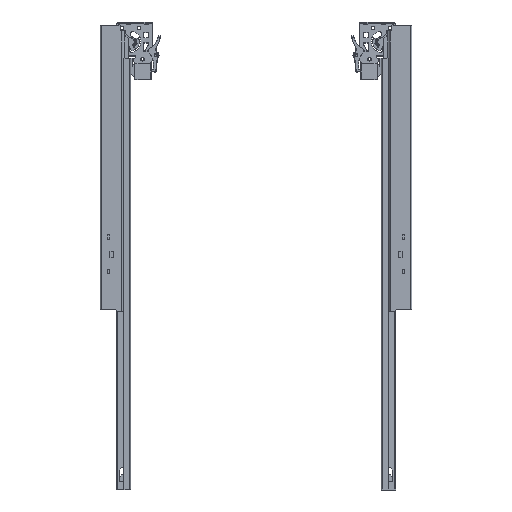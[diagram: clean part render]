
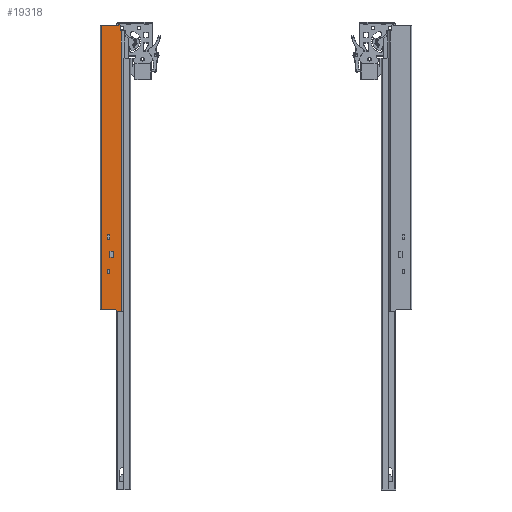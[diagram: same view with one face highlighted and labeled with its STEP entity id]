
A CAD part, front view. The second image highlights one B-rep face of the part: STEP entity #19318.
In plain terms, the highlighted planar face has unit normal (0, -1, 0).
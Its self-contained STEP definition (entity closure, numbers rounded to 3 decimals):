
#637=FACE_BOUND('',#3901,.T.);
#638=FACE_BOUND('',#3902,.T.);
#639=FACE_BOUND('',#3903,.T.);
#1417=CIRCLE('',#20562,0.5);
#1418=CIRCLE('',#20563,0.5);
#2714=FACE_OUTER_BOUND('',#3900,.T.);
#3900=EDGE_LOOP('',(#12413,#12414,#12415,#12416,#12417,#12418,#12419,#12420,
#12421,#12422));
#3901=EDGE_LOOP('',(#12423,#12424,#12425,#12426));
#3902=EDGE_LOOP('',(#12427,#12428,#12429,#12430));
#3903=EDGE_LOOP('',(#12431,#12432,#12433,#12434));
#5377=LINE('',#29144,#6649);
#5381=LINE('',#29152,#6653);
#5384=LINE('',#29158,#6656);
#5387=LINE('',#29163,#6659);
#5389=LINE('',#29169,#6661);
#5393=LINE('',#29177,#6665);
#5396=LINE('',#29183,#6668);
#5399=LINE('',#29188,#6671);
#5401=LINE('',#29194,#6673);
#5405=LINE('',#29202,#6677);
#5408=LINE('',#29208,#6680);
#5411=LINE('',#29213,#6683);
#5413=LINE('',#29219,#6685);
#5428=LINE('',#29267,#6700);
#5436=LINE('',#29287,#6708);
#5437=LINE('',#29291,#6709);
#5438=LINE('',#29293,#6710);
#5439=LINE('',#29295,#6711);
#5440=LINE('',#29299,#6712);
#5441=LINE('',#29302,#6713);
#6649=VECTOR('',#22978,6.);
#6653=VECTOR('',#22984,3.5);
#6656=VECTOR('',#22989,6.);
#6659=VECTOR('',#22994,3.5);
#6661=VECTOR('',#23000,6.);
#6665=VECTOR('',#23006,3.5);
#6668=VECTOR('',#23011,6.);
#6671=VECTOR('',#23016,3.5);
#6673=VECTOR('',#23022,8.);
#6677=VECTOR('',#23028,5.);
#6680=VECTOR('',#23033,8.);
#6683=VECTOR('',#23038,5.);
#6685=VECTOR('',#23044,4.243);
#6700=VECTOR('',#23079,18.);
#6708=VECTOR('',#23099,365.);
#6709=VECTOR('',#23104,4.);
#6710=VECTOR('',#23105,360.5);
#6711=VECTOR('',#23106,0.5);
#6712=VECTOR('',#23109,6.5);
#6713=VECTOR('',#23112,23.5);
#7921=VERTEX_POINT('',#29142);
#7922=VERTEX_POINT('',#29143);
#7925=VERTEX_POINT('',#29151);
#7927=VERTEX_POINT('',#29157);
#7929=VERTEX_POINT('',#29167);
#7930=VERTEX_POINT('',#29168);
#7933=VERTEX_POINT('',#29176);
#7935=VERTEX_POINT('',#29182);
#7937=VERTEX_POINT('',#29192);
#7938=VERTEX_POINT('',#29193);
#7941=VERTEX_POINT('',#29201);
#7943=VERTEX_POINT('',#29207);
#7945=VERTEX_POINT('',#29217);
#7946=VERTEX_POINT('',#29218);
#7969=VERTEX_POINT('',#29266);
#7975=VERTEX_POINT('',#29286);
#7976=VERTEX_POINT('',#29290);
#7977=VERTEX_POINT('',#29292);
#7978=VERTEX_POINT('',#29294);
#7979=VERTEX_POINT('',#29296);
#7980=VERTEX_POINT('',#29298);
#7981=VERTEX_POINT('',#29300);
#9591=EDGE_CURVE('',#7921,#7922,#5377,.T.);
#9595=EDGE_CURVE('',#7922,#7925,#5381,.T.);
#9598=EDGE_CURVE('',#7925,#7927,#5384,.T.);
#9601=EDGE_CURVE('',#7927,#7921,#5387,.T.);
#9603=EDGE_CURVE('',#7929,#7930,#5389,.T.);
#9607=EDGE_CURVE('',#7930,#7933,#5393,.T.);
#9610=EDGE_CURVE('',#7933,#7935,#5396,.T.);
#9613=EDGE_CURVE('',#7935,#7929,#5399,.T.);
#9615=EDGE_CURVE('',#7937,#7938,#5401,.T.);
#9619=EDGE_CURVE('',#7938,#7941,#5405,.T.);
#9622=EDGE_CURVE('',#7941,#7943,#5408,.T.);
#9625=EDGE_CURVE('',#7943,#7937,#5411,.T.);
#9627=EDGE_CURVE('',#7945,#7946,#5413,.T.);
#9651=EDGE_CURVE('',#7969,#7945,#5428,.T.);
#9661=EDGE_CURVE('',#7975,#7969,#5436,.T.);
#9663=EDGE_CURVE('',#7976,#7946,#5437,.T.);
#9664=EDGE_CURVE('',#7977,#7976,#5438,.T.);
#9665=EDGE_CURVE('',#7977,#7978,#5439,.T.);
#9666=EDGE_CURVE('',#7979,#7978,#1417,.T.);
#9667=EDGE_CURVE('',#7979,#7980,#5440,.T.);
#9668=EDGE_CURVE('',#7981,#7980,#1418,.T.);
#9669=EDGE_CURVE('',#7975,#7981,#5441,.T.);
#12413=ORIENTED_EDGE('',*,*,#9651,.T.);
#12414=ORIENTED_EDGE('',*,*,#9627,.T.);
#12415=ORIENTED_EDGE('',*,*,#9663,.F.);
#12416=ORIENTED_EDGE('',*,*,#9664,.F.);
#12417=ORIENTED_EDGE('',*,*,#9665,.T.);
#12418=ORIENTED_EDGE('',*,*,#9666,.F.);
#12419=ORIENTED_EDGE('',*,*,#9667,.T.);
#12420=ORIENTED_EDGE('',*,*,#9668,.F.);
#12421=ORIENTED_EDGE('',*,*,#9669,.F.);
#12422=ORIENTED_EDGE('',*,*,#9661,.T.);
#12423=ORIENTED_EDGE('',*,*,#9591,.T.);
#12424=ORIENTED_EDGE('',*,*,#9595,.T.);
#12425=ORIENTED_EDGE('',*,*,#9598,.T.);
#12426=ORIENTED_EDGE('',*,*,#9601,.T.);
#12427=ORIENTED_EDGE('',*,*,#9603,.T.);
#12428=ORIENTED_EDGE('',*,*,#9607,.T.);
#12429=ORIENTED_EDGE('',*,*,#9610,.T.);
#12430=ORIENTED_EDGE('',*,*,#9613,.T.);
#12431=ORIENTED_EDGE('',*,*,#9615,.T.);
#12432=ORIENTED_EDGE('',*,*,#9619,.T.);
#12433=ORIENTED_EDGE('',*,*,#9622,.T.);
#12434=ORIENTED_EDGE('',*,*,#9625,.T.);
#17768=PLANE('',#20561);
#19318=ADVANCED_FACE('',(#2714,#637,#638,#639),#17768,.T.);
#20561=AXIS2_PLACEMENT_3D('',#29289,#23102,#23103);
#20562=AXIS2_PLACEMENT_3D('',#29297,#23107,#23108);
#20563=AXIS2_PLACEMENT_3D('',#29301,#23110,#23111);
#22978=DIRECTION('',(0.,0.,1.));
#22984=DIRECTION('',(1.,0.,0.));
#22989=DIRECTION('',(0.,0.,-1.));
#22994=DIRECTION('',(-1.,0.,0.));
#23000=DIRECTION('',(0.,0.,1.));
#23006=DIRECTION('',(1.,0.,0.));
#23011=DIRECTION('',(0.,0.,-1.));
#23016=DIRECTION('',(-1.,0.,0.));
#23022=DIRECTION('',(0.,0.,1.));
#23028=DIRECTION('',(1.,0.,0.));
#23033=DIRECTION('',(0.,0.,-1.));
#23038=DIRECTION('',(-1.,0.,0.));
#23044=DIRECTION('',(0.707,0.,-0.707));
#23079=DIRECTION('',(1.,0.,0.));
#23099=DIRECTION('',(0.,0.,-1.));
#23102=DIRECTION('center_axis',(0.,-1.,0.));
#23103=DIRECTION('ref_axis',(-1.,0.,0.));
#23104=DIRECTION('',(-1.,0.,0.));
#23105=DIRECTION('',(0.,0.,-1.));
#23106=DIRECTION('',(-1.,0.,0.));
#23107=DIRECTION('center_axis',(0.,-1.,0.));
#23108=DIRECTION('ref_axis',(-0.707,0.,-0.707));
#23109=DIRECTION('',(0.,0.,1.));
#23110=DIRECTION('center_axis',(0.,1.,0.));
#23111=DIRECTION('ref_axis',(0.707,0.,0.707));
#23112=DIRECTION('',(1.,0.,0.));
#29142=CARTESIAN_POINT('',(9.,0.,-275.));
#29143=CARTESIAN_POINT('',(9.,0.,-269.));
#29144=CARTESIAN_POINT('',(9.,0.,-134.5));
#29151=CARTESIAN_POINT('',(12.5,0.,-269.));
#29152=CARTESIAN_POINT('',(19.75,0.,-269.));
#29157=CARTESIAN_POINT('',(12.5,0.,-275.));
#29158=CARTESIAN_POINT('',(12.5,0.,-137.5));
#29163=CARTESIAN_POINT('',(18.,0.,-275.));
#29167=CARTESIAN_POINT('',(9.,0.,-319.));
#29168=CARTESIAN_POINT('',(9.,0.,-313.));
#29169=CARTESIAN_POINT('',(9.,0.,-156.5));
#29176=CARTESIAN_POINT('',(12.5,0.,-313.));
#29177=CARTESIAN_POINT('',(19.75,0.,-313.));
#29182=CARTESIAN_POINT('',(12.5,0.,-319.));
#29183=CARTESIAN_POINT('',(12.5,0.,-159.5));
#29188=CARTESIAN_POINT('',(18.,0.,-319.));
#29192=CARTESIAN_POINT('',(12.5,0.,-298.));
#29193=CARTESIAN_POINT('',(12.5,0.,-290.));
#29194=CARTESIAN_POINT('',(12.5,0.,-145.));
#29201=CARTESIAN_POINT('',(17.5,0.,-290.));
#29202=CARTESIAN_POINT('',(22.25,0.,-290.));
#29207=CARTESIAN_POINT('',(17.5,0.,-298.));
#29208=CARTESIAN_POINT('',(17.5,0.,-149.));
#29213=CARTESIAN_POINT('',(19.75,0.,-298.));
#29217=CARTESIAN_POINT('',(20.,0.,-365.));
#29218=CARTESIAN_POINT('',(23.,0.,-368.));
#29219=CARTESIAN_POINT('',(-69.5,0.,-275.5));
#29266=CARTESIAN_POINT('',(2.,0.,-365.));
#29267=CARTESIAN_POINT('',(13.5,0.,-365.));
#29286=CARTESIAN_POINT('',(2.,0.,0.));
#29287=CARTESIAN_POINT('',(2.,0.,0.));
#29289=CARTESIAN_POINT('Origin',(27.,0.,0.));
#29290=CARTESIAN_POINT('',(27.,0.,-368.));
#29291=CARTESIAN_POINT('',(2.,0.,-368.));
#29292=CARTESIAN_POINT('',(27.,0.,-7.5));
#29293=CARTESIAN_POINT('',(27.,0.,0.));
#29294=CARTESIAN_POINT('',(26.5,0.,-7.5));
#29295=CARTESIAN_POINT('',(30.,0.,-7.5));
#29296=CARTESIAN_POINT('',(26.,0.,-7.));
#29297=CARTESIAN_POINT('Origin',(26.5,0.,
-7.));
#29298=CARTESIAN_POINT('',(26.,0.,-0.5));
#29299=CARTESIAN_POINT('',(26.,0.,-3.75));
#29300=CARTESIAN_POINT('',(25.5,0.,0.));
#29301=CARTESIAN_POINT('Origin',(25.5,0.,
-0.5));
#29302=CARTESIAN_POINT('',(2.,0.,0.));
